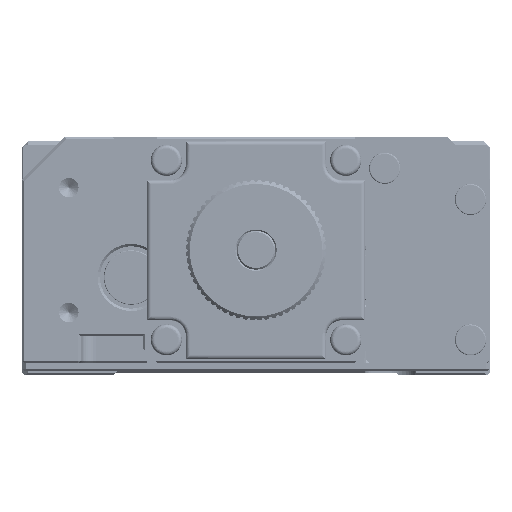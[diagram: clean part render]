
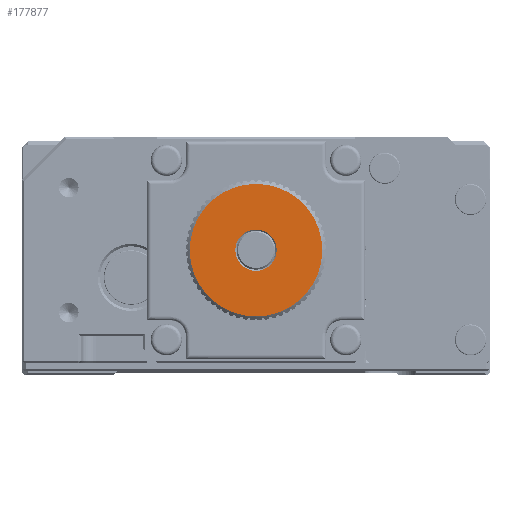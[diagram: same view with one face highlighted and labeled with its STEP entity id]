
A CAD part, front view. The second image highlights one B-rep face of the part: STEP entity #177877.
In plain terms, the highlighted planar face has unit normal (0, -1, 0).
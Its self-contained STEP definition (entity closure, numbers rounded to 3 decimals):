
#9309 = DIRECTION ( 'NONE',  ( 1., 0., 0. ) ) ;
#16015 = PLANE ( 'NONE',  #75473 ) ;
#17680 = ORIENTED_EDGE ( 'NONE', *, *, #48226, .T. ) ;
#20217 = CIRCLE ( 'NONE', #152036, 8.5 ) ;
#30663 = DIRECTION ( 'NONE',  ( 0., -1., 0. ) ) ;
#48226 = EDGE_CURVE ( 'NONE', #193911, #171665, #211948, .T. ) ;
#55822 = CIRCLE ( 'NONE', #127330, 2.65 ) ;
#72741 = CARTESIAN_POINT ( 'NONE',  ( 0., -239.12, -4.027 ) ) ;
#75473 = AXIS2_PLACEMENT_3D ( 'NONE', #72741, #154436, #142276 ) ;
#76383 = CARTESIAN_POINT ( 'NONE',  ( 8.5, -239.12, -4.027 ) ) ;
#76817 = EDGE_CURVE ( 'NONE', #174437, #152403, #55822, .T. ) ;
#84995 = DIRECTION ( 'NONE',  ( 1., 0., 0. ) ) ;
#97278 = AXIS2_PLACEMENT_3D ( 'NONE', #103148, #209388, #172780 ) ;
#99191 = CARTESIAN_POINT ( 'NONE',  ( 0., -239.12, -4.027 ) ) ;
#101897 = CARTESIAN_POINT ( 'NONE',  ( -2.65, -239.12, -4.027 ) ) ;
#103148 = CARTESIAN_POINT ( 'NONE',  ( 0., -239.12, -4.027 ) ) ;
#110737 = CARTESIAN_POINT ( 'NONE',  ( -8.5, -239.12, -4.027 ) ) ;
#122251 = CARTESIAN_POINT ( 'NONE',  ( 0., -239.12, -4.027 ) ) ;
#123386 = FACE_BOUND ( 'NONE', #183983, .T. ) ;
#126852 = EDGE_CURVE ( 'NONE', #171665, #193911, #20217, .T. ) ;
#127330 = AXIS2_PLACEMENT_3D ( 'NONE', #122251, #215432, #176476 ) ;
#136149 = ORIENTED_EDGE ( 'NONE', *, *, #76817, .T. ) ;
#140242 = CARTESIAN_POINT ( 'NONE',  ( 0., -239.12, -4.027 ) ) ;
#140769 = EDGE_CURVE ( 'NONE', #152403, #174437, #210250, .T. ) ;
#142276 = DIRECTION ( 'NONE',  ( 1., 0., 0. ) ) ;
#144045 = AXIS2_PLACEMENT_3D ( 'NONE', #99191, #30663, #84995 ) ;
#152036 = AXIS2_PLACEMENT_3D ( 'NONE', #140242, #175549, #9309 ) ;
#152403 = VERTEX_POINT ( 'NONE', #171532 ) ;
#154436 = DIRECTION ( 'NONE',  ( 0., -1., 0. ) ) ;
#171532 = CARTESIAN_POINT ( 'NONE',  ( 2.65, -239.12, -4.027 ) ) ;
#171665 = VERTEX_POINT ( 'NONE', #76383 ) ;
#172780 = DIRECTION ( 'NONE',  ( 1., 0., 0. ) ) ;
#174437 = VERTEX_POINT ( 'NONE', #101897 ) ;
#175088 = ORIENTED_EDGE ( 'NONE', *, *, #140769, .T. ) ;
#175549 = DIRECTION ( 'NONE',  ( 0., -1., 0. ) ) ;
#176476 = DIRECTION ( 'NONE',  ( 1., 0., 0. ) ) ;
#177877 = ADVANCED_FACE ( 'NONE', ( #123386, #213076 ), #16015, .T. ) ;
#183983 = EDGE_LOOP ( 'NONE', ( #175088, #136149 ) ) ;
#185017 = ORIENTED_EDGE ( 'NONE', *, *, #126852, .T. ) ;
#193911 = VERTEX_POINT ( 'NONE', #110737 ) ;
#207349 = EDGE_LOOP ( 'NONE', ( #17680, #185017 ) ) ;
#209388 = DIRECTION ( 'NONE',  ( 0., 1., 0. ) ) ;
#210250 = CIRCLE ( 'NONE', #97278, 2.65 ) ;
#211948 = CIRCLE ( 'NONE', #144045, 8.5 ) ;
#213076 = FACE_OUTER_BOUND ( 'NONE', #207349, .T. ) ;
#215432 = DIRECTION ( 'NONE',  ( 0., 1., 0. ) ) ;
